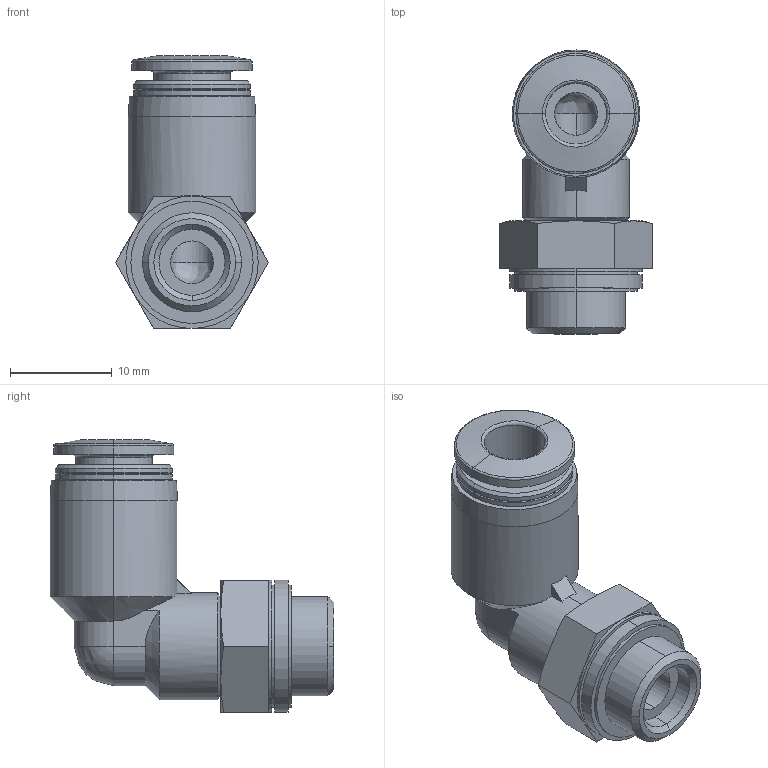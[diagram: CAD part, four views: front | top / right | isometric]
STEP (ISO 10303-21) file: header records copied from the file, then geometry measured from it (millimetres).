
FILE_DESCRIPTION (( 'STEP AP203' ), '1' );
FILE_NAME ('14010008.STEP', '2016-11-16T07:23:02', ( '' ), ( '' ), 'SwSTEP 2.0', 'SolidWorks 2015', '' );
FILE_SCHEMA (( 'CONFIG_CONTROL_DESIGN' ));
Length unit declared in the file: millimetre
Products named in the file (1): 14010008
Bounding box: 15.01 x 27.85 x 26.8 mm (x, y, z)
Volume: 3195 mm3; surface area: 2564.4 mm2
Topology: 1 solids, 1 shells, 97 faces, 213 edges, 124 vertices
Faces by surface type: cylinder 32, cone 29, plane 28, bspline 8
Entity records: 2941 total; most frequent: CARTESIAN_POINT 761, DIRECTION 465, ORIENTED_EDGE 420, EDGE_CURVE 210, AXIS2_PLACEMENT_3D 192, VERTEX_POINT 124, EDGE_LOOP 108, CIRCLE 102
